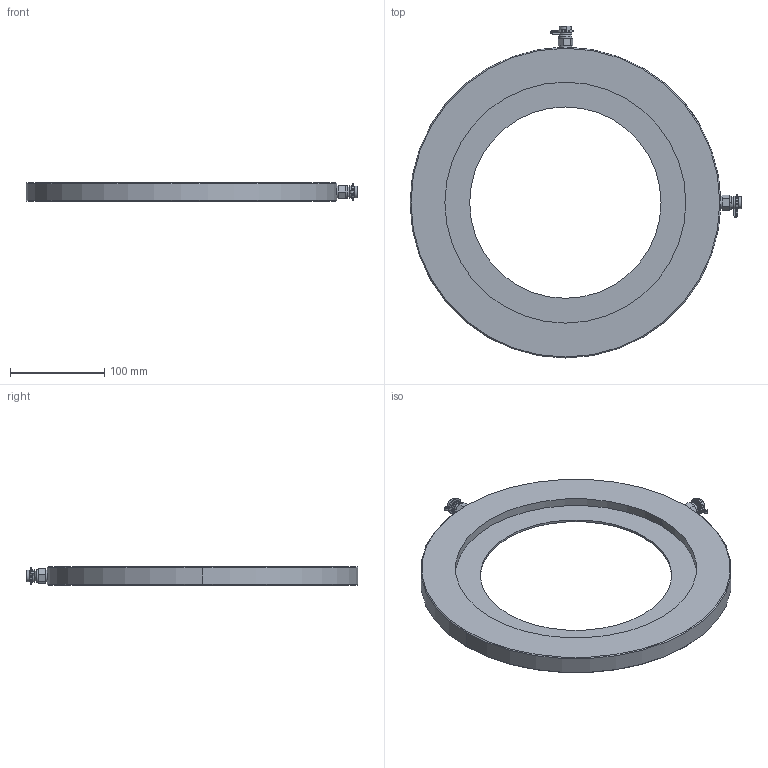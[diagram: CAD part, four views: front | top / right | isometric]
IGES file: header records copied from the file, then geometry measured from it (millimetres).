
Global section: file name: No Iges File Name specified; native system: AutoDesk Inventor R12.0; preprocessor: AutoDesk Inventor Iges Exporter R12.0; date: 20110308.101740; units: millimetre
Bounding box: 352.6 x 352.6 x 20 mm (x, y, z)
Volume: 730366.2 mm3; surface area: 145168.3 mm2
Topology: 1 solids, 1 shells, 131 faces, 316 edges, 204 vertices
Faces by surface type: plane 72, cylinder 27, cone 16, revolution 14, bspline 2
